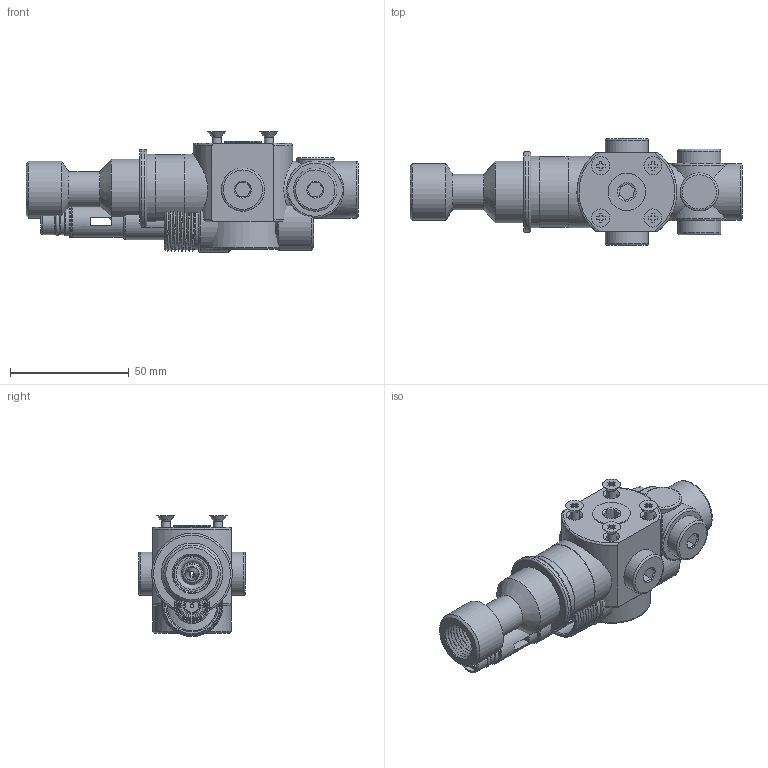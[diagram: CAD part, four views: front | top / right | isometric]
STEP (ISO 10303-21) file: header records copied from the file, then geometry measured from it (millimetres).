
FILE_DESCRIPTION( ( 'Unknown' ), '1' );
FILE_NAME( 'C:/Documents and Settings/Owner/官帕 拳搁/VSM 302P-12F-F.stp', 'Unknown', ( 'Unknown' ), ( 'Unknown' ), 'PSStep 10.0', 'Unknown', ' ' );
FILE_SCHEMA( ( 'AUTOMOTIVE_DESIGN { 1 0 10303 214 1 1 1 1 }' ) );
Length unit declared in the file: millimetre
Products named in the file (8): Assem2_0; Assem1; speeder moudle_20130528; Plug14_New_PPS; VC(L)302P_2; 蕾; 14M-End cap_0
Bounding box: 139.8 x 45 x 50.95 mm (x, y, z)
Surface area: 115987.3 mm2 (no closed solid volume)
Topology: 0 solids, 885 shells, 892 faces, 3389 edges, 3024 vertices
Faces by surface type: plane 355, cylinder 224, torus 132, cone 111, bspline 70
Full cylindrical faces by diameter (mm): 3.8 x5, 4.917 x12, 5.5 x3, 7 x3, 7.4 x6, 8 x3, 8.5 x6, 9 x9, 9.3 x6, 10.8 x6, 11 x2, 11.445 x18, 11.835 x3, 11.9 x3, 13 x3, 13.1 x3, 15 x9, 15.8 x2, 16 x3, 16.5 x7, 17 x3, 18.2 x7, 18.631 x3, 21 x3, 22.835 x3, 23.5 x3, 24 x9, 25.2 x3, 25.9 x3, 29.6 x3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
Entity records: 17463 total; most frequent: CARTESIAN_POINT 8416, DIRECTION 1554, ORIENTED_EDGE 804, EDGE_CURVE 804, VERTEX_POINT 804, AXIS2_PLACEMENT_3D 665, FACE_BOUND 404, EDGE_LOOP 404
